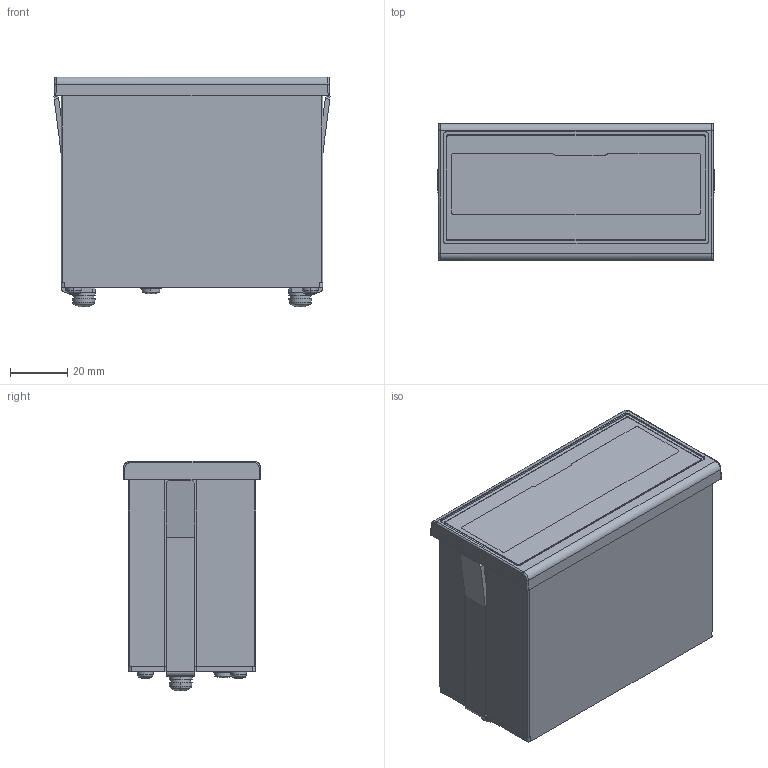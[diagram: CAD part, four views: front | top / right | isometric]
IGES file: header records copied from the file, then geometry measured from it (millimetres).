
Start section: Elysium IGES Interface
Global section: file name: 70HU:\cad_data\30_3D_CAD\LG\01_奜娤3D僨乕僞_20170601峏怴\IGES\EC-101D.igs; native system: Creo Elements/Direct Modeling 18.1B  29-Sep-2012; preprocessor: Creo Element/Direct IGES_3D V2.2; author: Unknown; organization: Unknown; date: 20170921.095417; units: millimetre
Bounding box: 96.48 x 48 x 80.25 mm (x, y, z)
Volume: 297105.8 mm3; surface area: 35288.9 mm2
Topology: 1 solids, 1 shells, 585 faces, 1513 edges, 958 vertices
Faces by surface type: bspline 585
